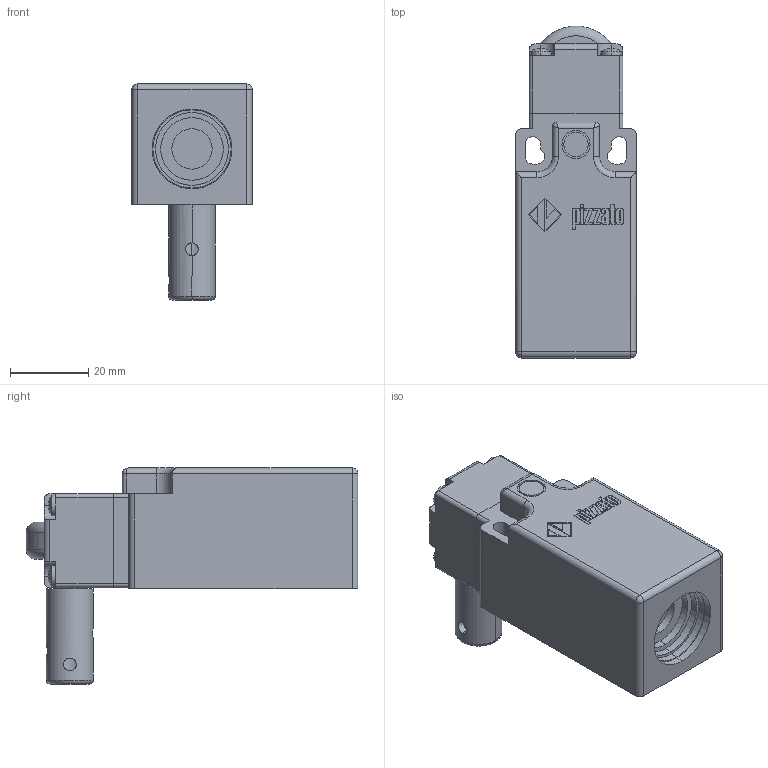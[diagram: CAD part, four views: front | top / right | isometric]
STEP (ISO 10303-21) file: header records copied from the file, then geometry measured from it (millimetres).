
FILE_DESCRIPTION (( 'STEP AP203' ), '1' );
FILE_NAME ('ZF_STEP_FR_x96_A10.step', '2010-02-26T19:10:10', ( 'fabio' ), ( '' ), 'SwSTEP 2.0', 'SolidWorks 2009', '' );
FILE_SCHEMA (( 'CONFIG_CONTROL_DESIGN' ));
Length unit declared in the file: millimetre
Products named in the file (5): ZF_STEP_FR_x96_A10; Pizzato_Custodia_FR; ZF_STEP_VF_TE96_A10; Pizzato_Supporto_TE96; Pizzato_perno_96
Assembly tree (4 placements, depth 3):
  ZF_STEP_FR_x96_A10
    Pizzato_Custodia_FR
    ZF_STEP_VF_TE96_A10
      Pizzato_perno_96
      Pizzato_Supporto_TE96
Bounding box: 30.8 x 84.8 x 55.2 mm (x, y, z)
Volume: 64563.5 mm3; surface area: 16289.7 mm2
Topology: 3 solids, 3 shells, 438 faces, 1142 edges, 748 vertices
Faces by surface type: plane 249, cylinder 102, bspline 71, sphere 10, torus 6
Entity records: 19879 total; most frequent: CARTESIAN_POINT 8937, ORIENTED_EDGE 2276, DIRECTION 1928, EDGE_CURVE 1138, LINE 778, VECTOR 778, VERTEX_POINT 748, AXIS2_PLACEMENT_3D 575
